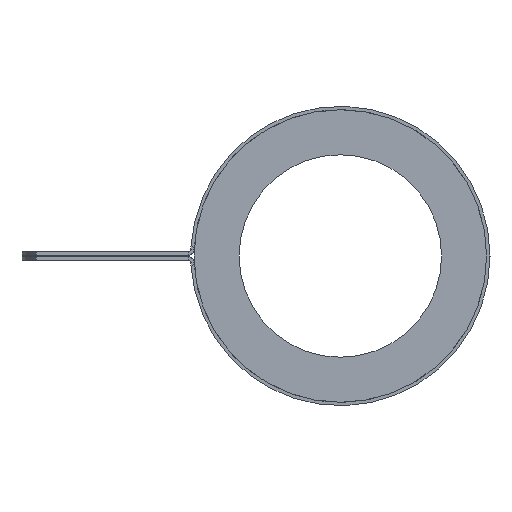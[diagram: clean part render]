
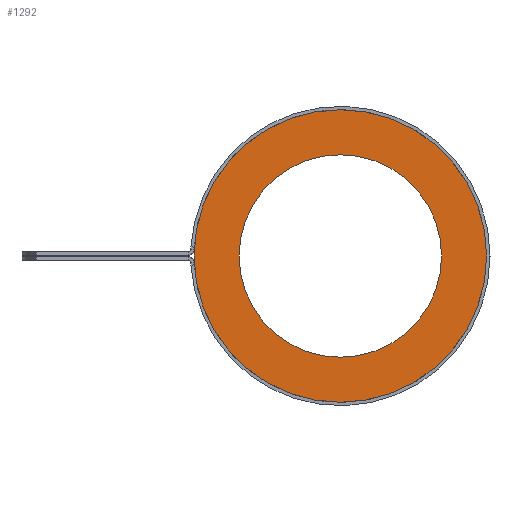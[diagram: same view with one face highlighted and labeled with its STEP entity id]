
A CAD part, left-side view. The second image highlights one B-rep face of the part: STEP entity #1292.
In plain terms, the highlighted planar face has unit normal (-1, 0, 0).
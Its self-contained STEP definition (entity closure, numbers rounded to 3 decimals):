
#41 = PLANE ( 'NONE',  #408 ) ;
#79 = CARTESIAN_POINT ( 'NONE',  ( -149.225, 0., 0. ) ) ;
#85 = DIRECTION ( 'NONE',  ( 1., 0., 0. ) ) ;
#86 = DIRECTION ( 'NONE',  ( 0., 0., -1. ) ) ;
#290 = EDGE_CURVE ( 'NONE', #1004, #1006, #851, .T. ) ;
#311 = EDGE_CURVE ( 'NONE', #1176, #1010, #858, .T. ) ;
#314 = EDGE_CURVE ( 'NONE', #1006, #1004, #861, .T. ) ;
#408 = AXIS2_PLACEMENT_3D ( 'NONE', #79, #85, #86 ) ;
#438 = AXIS2_PLACEMENT_3D ( 'NONE', #794, #795, #796 ) ;
#443 = AXIS2_PLACEMENT_3D ( 'NONE', #1430, #1431, #1432 ) ;
#444 = AXIS2_PLACEMENT_3D ( 'NONE', #1201, #1202, #1203 ) ;
#448 = AXIS2_PLACEMENT_3D ( 'NONE', #1102, #1103, #1104 ) ;
#463 = EDGE_CURVE ( 'NONE', #1010, #1176, #766, .T. ) ;
#634 = EDGE_LOOP ( 'NONE', ( #915, #916 ) ) ;
#639 = EDGE_LOOP ( 'NONE', ( #913, #914 ) ) ;
#766 = CIRCLE ( 'NONE', #438, 20.637 ) ;
#794 = CARTESIAN_POINT ( 'NONE',  ( -149.225, 0., 0. ) ) ;
#795 = DIRECTION ( 'NONE',  ( 1., 0., 0. ) ) ;
#796 = DIRECTION ( 'NONE',  ( 0., 0., -1. ) ) ;
#851 = CIRCLE ( 'NONE', #448, 14.288 ) ;
#858 = CIRCLE ( 'NONE', #444, 20.637 ) ;
#861 = CIRCLE ( 'NONE', #443, 14.288 ) ;
#913 = ORIENTED_EDGE ( 'NONE', *, *, #311, .F. ) ;
#914 = ORIENTED_EDGE ( 'NONE', *, *, #463, .F. ) ;
#915 = ORIENTED_EDGE ( 'NONE', *, *, #290, .T. ) ;
#916 = ORIENTED_EDGE ( 'NONE', *, *, #314, .T. ) ;
#1004 = VERTEX_POINT ( 'NONE', #1389 ) ;
#1006 = VERTEX_POINT ( 'NONE', #1390 ) ;
#1010 = VERTEX_POINT ( 'NONE', #1396 ) ;
#1102 = CARTESIAN_POINT ( 'NONE',  ( -149.225, 0., 0. ) ) ;
#1103 = DIRECTION ( 'NONE',  ( 1., 0., 0. ) ) ;
#1104 = DIRECTION ( 'NONE',  ( 0., 0., -1. ) ) ;
#1176 = VERTEX_POINT ( 'NONE', #1424 ) ;
#1201 = CARTESIAN_POINT ( 'NONE',  ( -149.225, 0., 0. ) ) ;
#1202 = DIRECTION ( 'NONE',  ( 1., 0., 0. ) ) ;
#1203 = DIRECTION ( 'NONE',  ( 0., 0., -1. ) ) ;
#1292 = ADVANCED_FACE ( 'NONE', ( #1321, #1328 ), #41, .F. ) ;
#1321 = FACE_OUTER_BOUND ( 'NONE', #639, .T. ) ;
#1328 = FACE_BOUND ( 'NONE', #634, .T. ) ;
#1389 = CARTESIAN_POINT ( 'NONE',  ( -149.225, 0., 14.288 ) ) ;
#1390 = CARTESIAN_POINT ( 'NONE',  ( -149.225, 0., -14.288 ) ) ;
#1396 = CARTESIAN_POINT ( 'NONE',  ( -149.225, 0., -20.637 ) ) ;
#1424 = CARTESIAN_POINT ( 'NONE',  ( -149.225, 0., 20.637 ) ) ;
#1430 = CARTESIAN_POINT ( 'NONE',  ( -149.225, 0., 0. ) ) ;
#1431 = DIRECTION ( 'NONE',  ( 1., 0., 0. ) ) ;
#1432 = DIRECTION ( 'NONE',  ( 0., 0., -1. ) ) ;
